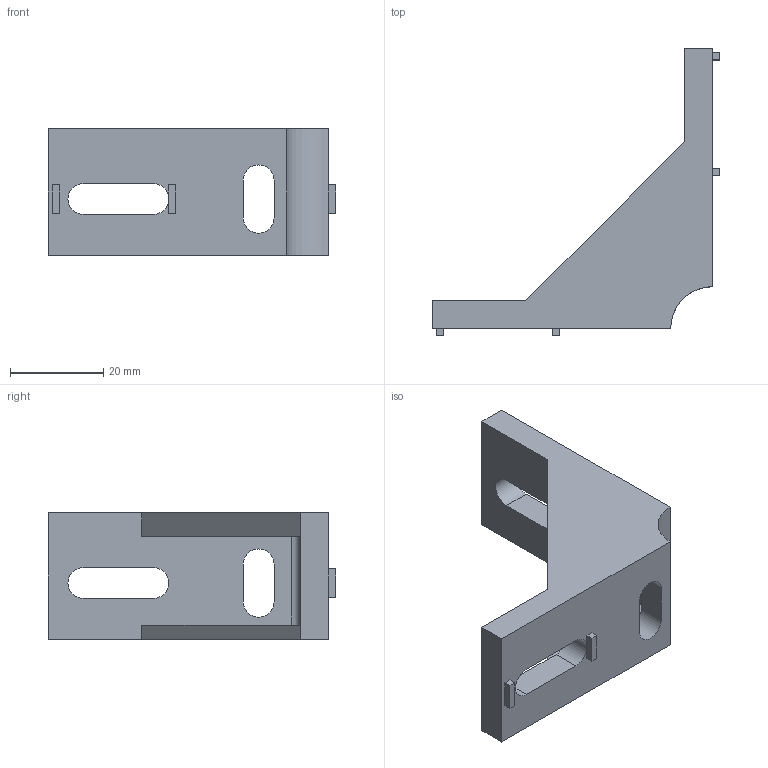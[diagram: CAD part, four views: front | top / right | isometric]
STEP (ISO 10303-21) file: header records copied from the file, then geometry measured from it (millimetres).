
FILE_DESCRIPTION(/* description */ ('Unknown'),/* implementation_level */ '2;1');
FILE_NAME(/* name */ 'DL2760',/* time_stamp */ '2026-09-17T16:15:00+08:00',/* author */ ('Unknown'),/* organization */ ('Unknown'),/* preprocessor_version */ 'ST-DEVELOPER v16.7',/* originating_system */ 'DEX',/* authorisation */ $);
FILE_SCHEMA (('AUTOMOTIVE_DESIGN {1 0 10303 214 3 1 1}'));
Length unit declared in the file: millimetre
Products named in the file (1): DCB2760-6
Bounding box: 61.5 x 61.5 x 27 mm (x, y, z)
Volume: 18802 mm3; surface area: 10009.8 mm2
Topology: 1 solids, 1 shells, 50 faces, 136 edges, 90 vertices
Faces by surface type: plane 40, cylinder 10
Entity records: 1612 total; most frequent: CARTESIAN_POINT 277, ORIENTED_EDGE 272, DIRECTION 260, EDGE_CURVE 136, LINE 114, VECTOR 114, VERTEX_POINT 90, AXIS2_PLACEMENT_3D 73
